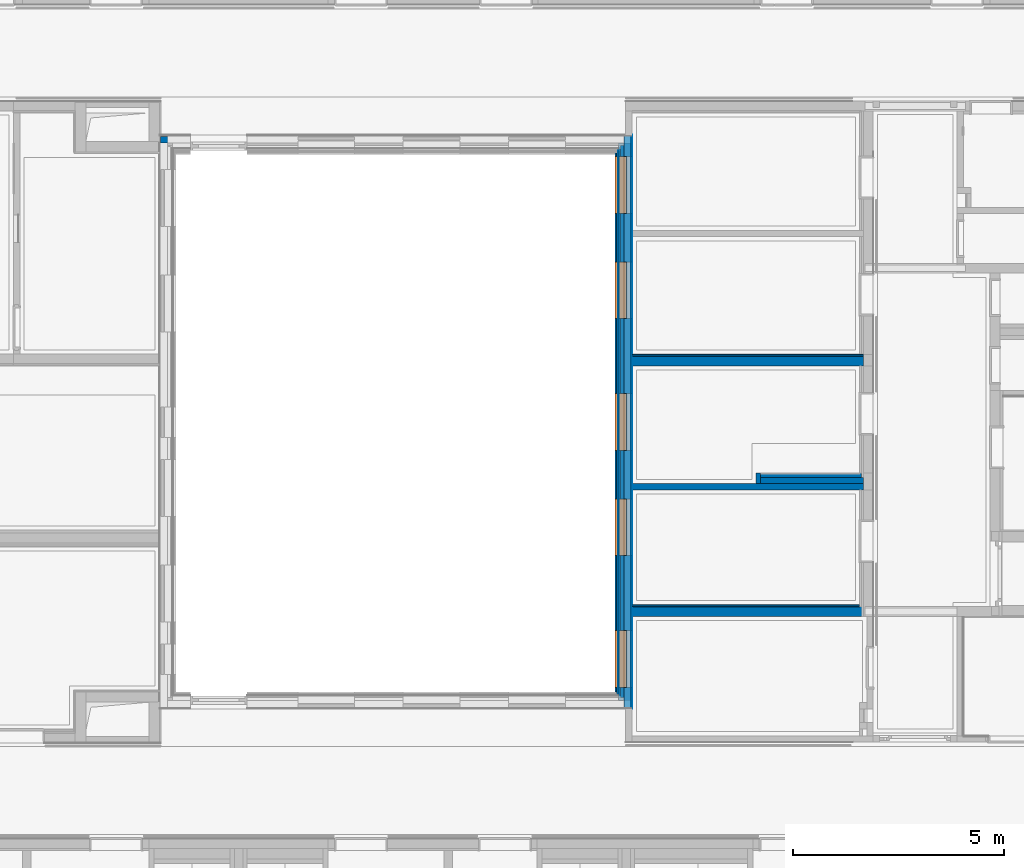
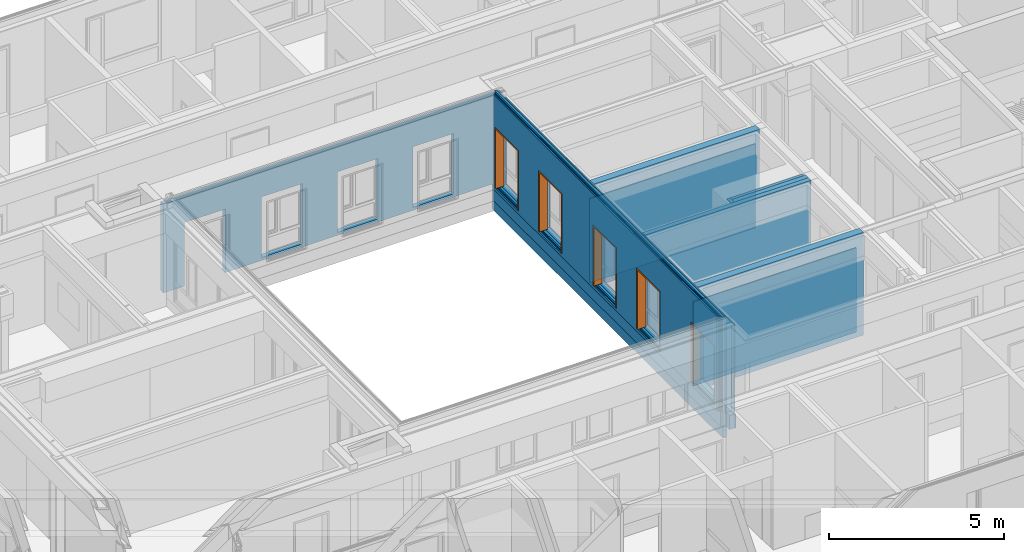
# One storey, part 51 of 207: 20 walls, 5 proxies, 39 openings.
"""IFC4 building model written with IfcOpenShell, lengths in metres."""

from ifc_helpers import new_model, entity, si_unit, converted_unit, derived_unit, frame, frame_2d, origin, origin_with_axes, place, context, subcontext, project, spatial, polyline, rectangle, outline, extrude, faceted_brep, material, element, fill, save


model = new_model("IFC4")

# Units and contexts
model_context = context("Model", 3, precision=1e-05, world=origin())
body_context = subcontext(model_context, "Body", "Model", "MODEL_VIEW")
ifc_project = project(units=[si_unit("LENGTHUNIT", "METRE"), si_unit("AREAUNIT", "SQUARE_METRE"), si_unit("VOLUMEUNIT", "CUBIC_METRE"), si_unit("MASSUNIT", "GRAM", prefix="KILO"), converted_unit("PLANEANGLEUNIT", "DEGREE", entity("IfcPlaneAngleMeasure", 0.0174532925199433), si_unit("PLANEANGLEUNIT", "RADIAN"), dimensions=[0, 0, 0, 0, 0, 0, 0]), derived_unit("THERMALTRANSMITTANCEUNIT", [(si_unit("POWERUNIT", "WATT"), 1), (si_unit("THERMODYNAMICTEMPERATUREUNIT", "KELVIN"), -1), (si_unit("LENGTHUNIT", "METRE"), -2)]), derived_unit("VOLUMETRICFLOWRATEUNIT", [(si_unit("LENGTHUNIT", "METRE"), 3), (converted_unit("TIMEUNIT", "hour", entity("IfcTimeMeasure", 3600.0), si_unit("TIMEUNIT", "SECOND"), dimensions=[0, 0, 1, 0, 0, 0, 0]), -1), (si_unit("LENGTHUNIT", "METRE"), -1)])], contexts=[model_context])

# Site, building, storey
site_placement = place(None, origin())
site = spatial("IfcSite", under=ifc_project, at=site_placement, Name="Psychiatrie Neubau Wunstorf", CompositionType="ELEMENT")
building_placement = place(site_placement, origin())
building = spatial("IfcBuilding", under=site, at=building_placement, Name="Neubau H2 Stationsgebäude", CompositionType="ELEMENT")
storey_placement = place(building_placement, frame((0.0, 0.0, -0.2)))
storey = spatial("IfcBuildingStorey", under=building, at=storey_placement, Name="H2 Ebene 0", CompositionType="ELEMENT", Elevation=-0.2)

# Wall, openings
ifc_material_1 = material(Name="WA-LB")
wall_1_placement = place(storey_placement, frame((90.361, 8.45000000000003, 0.5), z_axis=(0.0, 0.0, 1.0), x_axis=(0.0, 1.0, 0.0)))
wall_1 = element("IfcWall", 1, at=wall_1_placement, inside=storey, material=ifc_material_1, context=body_context, shape_type="SweptSolid", body=[
    extrude(rectangle(XDim=13.55, YDim=0.036, at=frame_2d((6.775, 0.018), x_axis=(1.0, 0.0))), origin_with_axes(), (0.0, 0.0, 1.0), 3.1),
])
opening_1_placement = place(wall_1_placement, frame((13.0746, 0.036, 0.1), z_axis=(0.0, -1.0, 0.0), x_axis=(0.0, 0.0, 1.0)))
element("IfcOpeningElement", 2, at=opening_1_placement, cuts=wall_1, Name="Fensteröffnung", ObjectType="Opening", context=body_context, shape_type="SweptSolid", body=[
    extrude(outline(polyline([(2.12, 1.35), (2.12, 0.0), (0.0, 0.0), (0.0, 1.35), (2.12, 1.35)])), origin_with_axes(), (0.0, 0.0, 1.0), 0.036),
])
opening_2_placement = place(wall_1_placement, frame((10.5746, 0.036, 0.1), z_axis=(0.0, -1.0, 0.0), x_axis=(0.0, 0.0, 1.0)))
element("IfcOpeningElement", 3, at=opening_2_placement, cuts=wall_1, Name="Fensteröffnung", ObjectType="Opening", context=body_context, shape_type="SweptSolid", body=[
    extrude(outline(polyline([(2.12, 1.35), (2.12, 0.0), (0.0, 0.0), (0.0, 1.35), (2.12, 1.35)])), origin_with_axes(), (0.0, 0.0, 1.0), 0.036),
])
opening_3_placement = place(wall_1_placement, frame((7.44999999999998, 0.036, 0.1), z_axis=(0.0, -1.0, 0.0), x_axis=(0.0, 0.0, 1.0)))
element("IfcOpeningElement", 4, at=opening_3_placement, cuts=wall_1, Name="Fensteröffnung", ObjectType="Opening", context=body_context, shape_type="SweptSolid", body=[
    extrude(outline(polyline([(2.12, 1.35), (2.12, 0.0), (0.0, 0.0), (0.0, 1.35), (2.12, 1.35)])), origin_with_axes(), (0.0, 0.0, 1.0), 0.036),
])
opening_4_placement = place(wall_1_placement, frame((4.94999999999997, 0.036, 0.1), z_axis=(0.0, -1.0, 0.0), x_axis=(0.0, 0.0, 1.0)))
element("IfcOpeningElement", 5, at=opening_4_placement, cuts=wall_1, Name="Fensteröffnung", ObjectType="Opening", context=body_context, shape_type="SweptSolid", body=[
    extrude(outline(polyline([(2.12, 1.35), (2.12, 0.0), (0.0, 0.0), (0.0, 1.35), (2.12, 1.35)])), origin_with_axes(), (0.0, 0.0, 1.0), 0.036),
])
opening_5_placement = place(wall_1_placement, frame((1.82569999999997, 0.036, 0.1), z_axis=(0.0, -1.0, 0.0), x_axis=(0.0, 0.0, 1.0)))
element("IfcOpeningElement", 6, at=opening_5_placement, cuts=wall_1, Name="Fensteröffnung", ObjectType="Opening", context=body_context, shape_type="SweptSolid", body=[
    extrude(outline(polyline([(2.12, 1.35), (2.12, 0.0), (0.0, 0.0), (0.0, 1.35), (2.12, 1.35)])), origin_with_axes(), (0.0, 0.0, 1.0), 0.036),
])

ifc_material_2 = material(Name="WA-HD")
wall_2_placement = place(storey_placement, frame((90.325, 8.61000000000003, 0.5), z_axis=(0.0, 0.0, 1.0), x_axis=(0.0, 1.0, 0.0)))
wall_2 = element("IfcWall", 7, at=wall_2_placement, inside=storey, material=ifc_material_2, context=body_context, shape_type="SweptSolid", body=[
    extrude(rectangle(XDim=13.23, YDim=0.16, at=frame_2d((6.615, 0.08), x_axis=(1.0, 0.0))), origin_with_axes(), (0.0, 0.0, 1.0), 3.1),
])
opening_6_placement = place(wall_2_placement, frame((12.9146, 0.16, 0.1), z_axis=(0.0, -1.0, 0.0), x_axis=(0.0, 0.0, 1.0)))
element("IfcOpeningElement", 8, at=opening_6_placement, cuts=wall_2, Name="Fensteröffnung", ObjectType="Opening", context=body_context, shape_type="SweptSolid", body=[
    extrude(outline(polyline([(2.12, 1.35), (2.12, 0.0), (0.0, 0.0), (0.0, 1.35), (2.12, 1.35)])), origin_with_axes(), (0.0, 0.0, 1.0), 0.16),
])
opening_7_placement = place(wall_2_placement, frame((10.4146, 0.16, 0.1), z_axis=(0.0, -1.0, 0.0), x_axis=(0.0, 0.0, 1.0)))
element("IfcOpeningElement", 9, at=opening_7_placement, cuts=wall_2, Name="Fensteröffnung", ObjectType="Opening", context=body_context, shape_type="SweptSolid", body=[
    extrude(outline(polyline([(2.12, 1.35), (2.12, 0.0), (0.0, 0.0), (0.0, 1.35), (2.12, 1.35)])), origin_with_axes(), (0.0, 0.0, 1.0), 0.16),
])
opening_8_placement = place(wall_2_placement, frame((7.28999999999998, 0.16, 0.1), z_axis=(0.0, -1.0, 0.0), x_axis=(0.0, 0.0, 1.0)))
element("IfcOpeningElement", 10, at=opening_8_placement, cuts=wall_2, Name="Fensteröffnung", ObjectType="Opening", context=body_context, shape_type="SweptSolid", body=[
    extrude(outline(polyline([(2.12, 1.35), (2.12, 0.0), (0.0, 0.0), (0.0, 1.35), (2.12, 1.35)])), origin_with_axes(), (0.0, 0.0, 1.0), 0.16),
])
opening_9_placement = place(wall_2_placement, frame((4.78999999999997, 0.16, 0.1), z_axis=(0.0, -1.0, 0.0), x_axis=(0.0, 0.0, 1.0)))
element("IfcOpeningElement", 11, at=opening_9_placement, cuts=wall_2, Name="Fensteröffnung", ObjectType="Opening", context=body_context, shape_type="SweptSolid", body=[
    extrude(outline(polyline([(2.12, 1.35), (2.12, 0.0), (0.0, 0.0), (0.0, 1.35), (2.12, 1.35)])), origin_with_axes(), (0.0, 0.0, 1.0), 0.16),
])
opening_10_placement = place(wall_2_placement, frame((1.66569999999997, 0.16, 0.1), z_axis=(0.0, -1.0, 0.0), x_axis=(0.0, 0.0, 1.0)))
element("IfcOpeningElement", 12, at=opening_10_placement, cuts=wall_2, Name="Fensteröffnung", ObjectType="Opening", context=body_context, shape_type="SweptSolid", body=[
    extrude(outline(polyline([(2.12, 1.35), (2.12, 0.0), (0.0, 0.0), (0.0, 1.35), (2.12, 1.35)])), origin_with_axes(), (0.0, 0.0, 1.0), 0.16),
])

ifc_material_3 = material(Name="WA-DL")
wall_3_placement = place(storey_placement, frame((90.165, 8.69000000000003, 0.5), z_axis=(0.0, 0.0, 1.0), x_axis=(0.0, 1.0, 0.0)))
wall_3 = element("IfcWall", 13, at=wall_3_placement, inside=storey, material=ifc_material_3, context=body_context, shape_type="SweptSolid", body=[
    extrude(rectangle(XDim=13.09, YDim=0.08, at=frame_2d((6.545, 0.04), x_axis=(1.0, 0.0))), origin_with_axes(), (0.0, 0.0, 1.0), 3.3),
])
opening_11_placement = place(wall_3_placement, frame((12.8346, 0.08, 0.1), z_axis=(0.0, -1.0, 0.0), x_axis=(0.0, 0.0, 1.0)))
element("IfcOpeningElement", 14, at=opening_11_placement, cuts=wall_3, Name="Fensteröffnung", ObjectType="Opening", context=body_context, shape_type="SweptSolid", body=[
    extrude(outline(polyline([(2.12, 1.35), (2.12, 0.0), (0.0, 0.0), (0.0, 1.35), (2.12, 1.35)])), origin_with_axes(), (0.0, 0.0, 1.0), 0.08),
])
opening_12_placement = place(wall_3_placement, frame((10.3346, 0.08, 0.1), z_axis=(0.0, -1.0, 0.0), x_axis=(0.0, 0.0, 1.0)))
element("IfcOpeningElement", 15, at=opening_12_placement, cuts=wall_3, Name="Fensteröffnung", ObjectType="Opening", context=body_context, shape_type="SweptSolid", body=[
    extrude(outline(polyline([(2.12, 1.35), (2.12, 0.0), (0.0, 0.0), (0.0, 1.35), (2.12, 1.35)])), origin_with_axes(), (0.0, 0.0, 1.0), 0.08),
])
opening_13_placement = place(wall_3_placement, frame((7.20999999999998, 0.08, 0.1), z_axis=(0.0, -1.0, 0.0), x_axis=(0.0, 0.0, 1.0)))
element("IfcOpeningElement", 16, at=opening_13_placement, cuts=wall_3, Name="Fensteröffnung", ObjectType="Opening", context=body_context, shape_type="SweptSolid", body=[
    extrude(outline(polyline([(2.12, 1.35), (2.12, 0.0), (0.0, 0.0), (0.0, 1.35), (2.12, 1.35)])), origin_with_axes(), (0.0, 0.0, 1.0), 0.08),
])
opening_14_placement = place(wall_3_placement, frame((4.70999999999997, 0.08, 0.1), z_axis=(0.0, -1.0, 0.0), x_axis=(0.0, 0.0, 1.0)))
element("IfcOpeningElement", 17, at=opening_14_placement, cuts=wall_3, Name="Fensteröffnung", ObjectType="Opening", context=body_context, shape_type="SweptSolid", body=[
    extrude(outline(polyline([(2.12, 1.35), (2.12, 0.0), (0.0, 0.0), (0.0, 1.35), (2.12, 1.35)])), origin_with_axes(), (0.0, 0.0, 1.0), 0.08),
])
opening_15_placement = place(wall_3_placement, frame((1.58569999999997, 0.08, 0.1), z_axis=(0.0, -1.0, 0.0), x_axis=(0.0, 0.0, 1.0)))
element("IfcOpeningElement", 18, at=opening_15_placement, cuts=wall_3, Name="Fensteröffnung", ObjectType="Opening", context=body_context, shape_type="SweptSolid", body=[
    extrude(outline(polyline([(2.12, 1.35), (2.12, 0.0), (0.0, 0.0), (0.0, 1.35), (2.12, 1.35)])), origin_with_axes(), (0.0, 0.0, 1.0), 0.08),
])

ifc_material_4 = material(Name="WA-LB")
wall_4_placement = place(storey_placement, frame((90.085, 8.72600000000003, 0.5), z_axis=(0.0, 0.0, 1.0), x_axis=(0.0, 1.0, 0.0)))
wall_4 = element("IfcWall", 19, at=wall_4_placement, inside=storey, material=ifc_material_4, context=body_context, shape_type="SweptSolid", body=[
    extrude(rectangle(XDim=12.974, YDim=0.036, at=frame_2d((6.487, 0.018), x_axis=(1.0, 0.0))), origin_with_axes(), (0.0, 0.0, 1.0), 3.3),
])
opening_16_placement = place(wall_4_placement, frame((12.7986, 0.036, 0.1), z_axis=(0.0, -1.0, 0.0), x_axis=(0.0, 0.0, 1.0)))
element("IfcOpeningElement", 20, at=opening_16_placement, cuts=wall_4, Name="Fensteröffnung", ObjectType="Opening", context=body_context, shape_type="SweptSolid", body=[
    extrude(outline(polyline([(2.12, 1.35), (2.12, 0.0), (0.0, 0.0), (0.0, 1.35), (2.12, 1.35)])), origin_with_axes(), (0.0, 0.0, 1.0), 0.036),
])
opening_17_placement = place(wall_4_placement, frame((10.2986, 0.036, 0.1), z_axis=(0.0, -1.0, 0.0), x_axis=(0.0, 0.0, 1.0)))
element("IfcOpeningElement", 21, at=opening_17_placement, cuts=wall_4, Name="Fensteröffnung", ObjectType="Opening", context=body_context, shape_type="SweptSolid", body=[
    extrude(outline(polyline([(2.12, 1.35), (2.12, 0.0), (0.0, 0.0), (0.0, 1.35), (2.12, 1.35)])), origin_with_axes(), (0.0, 0.0, 1.0), 0.036),
])
opening_18_placement = place(wall_4_placement, frame((7.17399999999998, 0.036, 0.1), z_axis=(0.0, -1.0, 0.0), x_axis=(0.0, 0.0, 1.0)))
element("IfcOpeningElement", 22, at=opening_18_placement, cuts=wall_4, Name="Fensteröffnung", ObjectType="Opening", context=body_context, shape_type="SweptSolid", body=[
    extrude(outline(polyline([(2.12, 1.35), (2.12, 0.0), (0.0, 0.0), (0.0, 1.35), (2.12, 1.35)])), origin_with_axes(), (0.0, 0.0, 1.0), 0.036),
])
opening_19_placement = place(wall_4_placement, frame((4.67399999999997, 0.036, 0.1), z_axis=(0.0, -1.0, 0.0), x_axis=(0.0, 0.0, 1.0)))
element("IfcOpeningElement", 23, at=opening_19_placement, cuts=wall_4, Name="Fensteröffnung", ObjectType="Opening", context=body_context, shape_type="SweptSolid", body=[
    extrude(outline(polyline([(2.12, 1.35), (2.12, 0.0), (0.0, 0.0), (0.0, 1.35), (2.12, 1.35)])), origin_with_axes(), (0.0, 0.0, 1.0), 0.036),
])
opening_20_placement = place(wall_4_placement, frame((1.54969999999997, 0.036, 0.1), z_axis=(0.0, -1.0, 0.0), x_axis=(0.0, 0.0, 1.0)))
element("IfcOpeningElement", 24, at=opening_20_placement, cuts=wall_4, Name="Fensteröffnung", ObjectType="Opening", context=body_context, shape_type="SweptSolid", body=[
    extrude(outline(polyline([(2.12, 1.35), (2.12, 0.0), (0.0, 0.0), (0.0, 1.35), (2.12, 1.35)])), origin_with_axes(), (0.0, 0.0, 1.0), 0.036),
])

ifc_material_5 = material(Name="WA-KL")
wall_5_placement = place(storey_placement, frame((90.049, 8.75000000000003, 0.5), z_axis=(0.0, 0.0, 1.0), x_axis=(0.0, 1.0, 0.0)))
wall_5 = element("IfcWall", 25, at=wall_5_placement, inside=storey, material=ifc_material_5, context=body_context, shape_type="SweptSolid", body=[
    extrude(rectangle(XDim=12.914, YDim=0.024, at=frame_2d((6.457, 0.012), x_axis=(1.0, 0.0))), origin_with_axes(), (0.0, 0.0, 1.0), 3.3),
])
opening_21_placement = place(wall_5_placement, frame((12.7746, 0.024, 0.1), z_axis=(0.0, -1.0, 0.0), x_axis=(0.0, 0.0, 1.0)))
element("IfcOpeningElement", 26, at=opening_21_placement, cuts=wall_5, Name="Fensteröffnung", ObjectType="Opening", context=body_context, shape_type="SweptSolid", body=[
    extrude(outline(polyline([(2.12, 1.35), (2.12, 0.0), (0.0, 0.0), (0.0, 1.35), (2.12, 1.35)])), origin_with_axes(), (0.0, 0.0, 1.0), 0.024),
])
opening_22_placement = place(wall_5_placement, frame((10.2746, 0.024, 0.1), z_axis=(0.0, -1.0, 0.0), x_axis=(0.0, 0.0, 1.0)))
element("IfcOpeningElement", 27, at=opening_22_placement, cuts=wall_5, Name="Fensteröffnung", ObjectType="Opening", context=body_context, shape_type="SweptSolid", body=[
    extrude(outline(polyline([(2.12, 1.35), (2.12, 0.0), (0.0, 0.0), (0.0, 1.35), (2.12, 1.35)])), origin_with_axes(), (0.0, 0.0, 1.0), 0.024),
])
opening_23_placement = place(wall_5_placement, frame((7.14999999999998, 0.024, 0.1), z_axis=(0.0, -1.0, 0.0), x_axis=(0.0, 0.0, 1.0)))
element("IfcOpeningElement", 28, at=opening_23_placement, cuts=wall_5, Name="Fensteröffnung", ObjectType="Opening", context=body_context, shape_type="SweptSolid", body=[
    extrude(outline(polyline([(2.12, 1.35), (2.12, 0.0), (0.0, 0.0), (0.0, 1.35), (2.12, 1.35)])), origin_with_axes(), (0.0, 0.0, 1.0), 0.024),
])
opening_24_placement = place(wall_5_placement, frame((4.64999999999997, 0.024, 0.1), z_axis=(0.0, -1.0, 0.0), x_axis=(0.0, 0.0, 1.0)))
element("IfcOpeningElement", 29, at=opening_24_placement, cuts=wall_5, Name="Fensteröffnung", ObjectType="Opening", context=body_context, shape_type="SweptSolid", body=[
    extrude(outline(polyline([(2.12, 1.35), (2.12, 0.0), (0.0, 0.0), (0.0, 1.35), (2.12, 1.35)])), origin_with_axes(), (0.0, 0.0, 1.0), 0.024),
])
opening_25_placement = place(wall_5_placement, frame((1.52569999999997, 0.024, 0.1), z_axis=(0.0, -1.0, 0.0), x_axis=(0.0, 0.0, 1.0)))
element("IfcOpeningElement", 30, at=opening_25_placement, cuts=wall_5, Name="Fensteröffnung", ObjectType="Opening", context=body_context, shape_type="SweptSolid", body=[
    extrude(outline(polyline([(2.12, 1.35), (2.12, 0.0), (0.0, 0.0), (0.0, 1.35), (2.12, 1.35)])), origin_with_axes(), (0.0, 0.0, 1.0), 0.024),
])

ifc_material_6 = material(Name="WA-TL")
wall_6_placement = place(storey_placement, frame((90.025, 8.77400000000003, 0.5), z_axis=(0.0, 0.0, 1.0), x_axis=(0.0, 1.0, 0.0)))
wall_6 = element("IfcWall", 31, at=wall_6_placement, inside=storey, material=ifc_material_6, context=body_context, shape_type="SweptSolid", body=[
    extrude(rectangle(XDim=12.866, YDim=0.024, at=frame_2d((6.433, 0.012), x_axis=(1.0, 0.0))), origin_with_axes(), (0.0, 0.0, 1.0), 3.3),
])
opening_26_placement = place(wall_6_placement, frame((12.7506, 0.024, 0.1), z_axis=(0.0, -1.0, 0.0), x_axis=(0.0, 0.0, 1.0)))
element("IfcOpeningElement", 32, at=opening_26_placement, cuts=wall_6, Name="Fensteröffnung", ObjectType="Opening", context=body_context, shape_type="SweptSolid", body=[
    extrude(outline(polyline([(2.12, 1.35), (2.12, 0.0), (0.0, 0.0), (0.0, 1.35), (2.12, 1.35)])), origin_with_axes(), (0.0, 0.0, 1.0), 0.024),
])
opening_27_placement = place(wall_6_placement, frame((10.2506, 0.024, 0.1), z_axis=(0.0, -1.0, 0.0), x_axis=(0.0, 0.0, 1.0)))
element("IfcOpeningElement", 33, at=opening_27_placement, cuts=wall_6, Name="Fensteröffnung", ObjectType="Opening", context=body_context, shape_type="SweptSolid", body=[
    extrude(outline(polyline([(2.12, 1.35), (2.12, 0.0), (0.0, 0.0), (0.0, 1.35), (2.12, 1.35)])), origin_with_axes(), (0.0, 0.0, 1.0), 0.024),
])
opening_28_placement = place(wall_6_placement, frame((7.12599999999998, 0.024, 0.1), z_axis=(0.0, -1.0, 0.0), x_axis=(0.0, 0.0, 1.0)))
element("IfcOpeningElement", 34, at=opening_28_placement, cuts=wall_6, Name="Fensteröffnung", ObjectType="Opening", context=body_context, shape_type="SweptSolid", body=[
    extrude(outline(polyline([(2.12, 1.35), (2.12, 0.0), (0.0, 0.0), (0.0, 1.35), (2.12, 1.35)])), origin_with_axes(), (0.0, 0.0, 1.0), 0.024),
])
opening_29_placement = place(wall_6_placement, frame((4.62599999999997, 0.024, 0.1), z_axis=(0.0, -1.0, 0.0), x_axis=(0.0, 0.0, 1.0)))
element("IfcOpeningElement", 35, at=opening_29_placement, cuts=wall_6, Name="Fensteröffnung", ObjectType="Opening", context=body_context, shape_type="SweptSolid", body=[
    extrude(outline(polyline([(2.12, 1.35), (2.12, 0.0), (0.0, 0.0), (0.0, 1.35), (2.12, 1.35)])), origin_with_axes(), (0.0, 0.0, 1.0), 0.024),
])
opening_30_placement = place(wall_6_placement, frame((1.50169999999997, 0.024, 0.1), z_axis=(0.0, -1.0, 0.0), x_axis=(0.0, 0.0, 1.0)))
element("IfcOpeningElement", 36, at=opening_30_placement, cuts=wall_6, Name="Fensteröffnung", ObjectType="Opening", context=body_context, shape_type="SweptSolid", body=[
    extrude(outline(polyline([(2.12, 1.35), (2.12, 0.0), (0.0, 0.0), (0.0, 1.35), (2.12, 1.35)])), origin_with_axes(), (0.0, 0.0, 1.0), 0.024),
])

# Wall, openings, proxies
ifc_material_7 = material(Name="WA-HS")
wall_7_placement = place(storey_placement, frame((90.001, 8.81600000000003, 0.5), z_axis=(0.0, 0.0, 1.0), x_axis=(0.0, 1.0, 0.0)))
wall_7 = element("IfcWall", 37, at=wall_7_placement, inside=storey, material=ifc_material_7, context=body_context, shape_type="SweptSolid", body=[
    extrude(rectangle(XDim=12.8, YDim=0.042, at=frame_2d((6.4, 0.021), x_axis=(1.0, 0.0))), origin_with_axes(), (0.0, 0.0, 1.0), 3.3),
])
opening_31_placement = place(wall_7_placement, frame((12.7086, 0.042, 0.1), z_axis=(0.0, -1.0, 0.0), x_axis=(0.0, 0.0, 1.0)))
opening_31 = element("IfcOpeningElement", 38, at=opening_31_placement, cuts=wall_7, Name="Fensteröffnung", ObjectType="Opening", context=body_context, shape_type="SweptSolid", body=[
    extrude(outline(polyline([(2.12, 1.35), (2.12, 0.0), (0.0, 0.0), (0.0, 1.35), (2.12, 1.35)])), origin_with_axes(), (0.0, 0.0, 1.0), 0.042),
])
opening_32_placement = place(wall_7_placement, frame((10.2086, 0.042, 0.1), z_axis=(0.0, -1.0, 0.0), x_axis=(0.0, 0.0, 1.0)))
opening_32 = element("IfcOpeningElement", 39, at=opening_32_placement, cuts=wall_7, Name="Fensteröffnung", ObjectType="Opening", context=body_context, shape_type="SweptSolid", body=[
    extrude(outline(polyline([(2.12, 1.35), (2.12, 0.0), (0.0, 0.0), (0.0, 1.35), (2.12, 1.35)])), origin_with_axes(), (0.0, 0.0, 1.0), 0.042),
])
opening_33_placement = place(wall_7_placement, frame((7.08399999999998, 0.042, 0.1), z_axis=(0.0, -1.0, 0.0), x_axis=(0.0, 0.0, 1.0)))
opening_33 = element("IfcOpeningElement", 40, at=opening_33_placement, cuts=wall_7, Name="Fensteröffnung", ObjectType="Opening", context=body_context, shape_type="SweptSolid", body=[
    extrude(outline(polyline([(2.12, 1.35), (2.12, 0.0), (0.0, 0.0), (0.0, 1.35), (2.12, 1.35)])), origin_with_axes(), (0.0, 0.0, 1.0), 0.042),
])
opening_34_placement = place(wall_7_placement, frame((4.58399999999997, 0.042, 0.1), z_axis=(0.0, -1.0, 0.0), x_axis=(0.0, 0.0, 1.0)))
opening_34 = element("IfcOpeningElement", 41, at=opening_34_placement, cuts=wall_7, Name="Fensteröffnung", ObjectType="Opening", context=body_context, shape_type="SweptSolid", body=[
    extrude(outline(polyline([(2.12, 1.35), (2.12, 0.0), (0.0, 0.0), (0.0, 1.35), (2.12, 1.35)])), origin_with_axes(), (0.0, 0.0, 1.0), 0.042),
])
opening_35_placement = place(wall_7_placement, frame((1.45969999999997, 0.042, 0.1), z_axis=(0.0, -1.0, 0.0), x_axis=(0.0, 0.0, 1.0)))
opening_35 = element("IfcOpeningElement", 42, at=opening_35_placement, cuts=wall_7, Name="Fensteröffnung", ObjectType="Opening", context=body_context, shape_type="SweptSolid", body=[
    extrude(outline(polyline([(2.12, 1.35), (2.12, 0.0), (0.0, 0.0), (0.0, 1.35), (2.12, 1.35)])), origin_with_axes(), (0.0, 0.0, 1.0), 0.042),
])
ifc_material_8 = material(Name="WA-HS")
proxy_1_placement = place(opening_31_placement, frame((0.0, 1.35, 0.0)))
proxy_1 = element("IfcBuildingElementProxy", 43, at=proxy_1_placement, inside=storey, material=ifc_material_8, context=body_context, shape_type="Brep", body=[
    faceted_brep([(0.0, -1.35, 0.0), (0.0, -1.35, 0.275), (2.12, -1.35, 0.275), (2.12, -1.35, 0.0), (0.0, -1.3, 0.275), (0.0, -1.3, 0.0), (2.07, -1.3, 0.0), (2.07, -1.3, 0.275), (2.12, 0.0, 0.275), (2.12, 0.0, 0.0), (0.0, 0.0, 0.0), (0.0, -0.05, 0.0), (2.07, -0.05, 0.0), (2.07, -0.05, 0.275), (0.0, -0.05, 0.275), (0.0, 0.0, 0.275)], [[[0, 1, 2, 3]], [[4, 5, 6, 7]], [[0, 5, 4, 1]], [[3, 2, 8, 9]], [[6, 5, 0, 3, 9, 10, 11, 12]], [[13, 14, 15, 8, 2, 1, 4, 7]], [[7, 6, 12, 13]], [[11, 14, 13, 12]], [[15, 10, 9, 8]], [[11, 10, 15, 14]]], orient=[[False], [False], [False], [False], [False], [False], [False], [False], [False], [False]]),
])
fill(opening_31, proxy_1)
ifc_material_9 = material(Name="WA-HS")
proxy_2_placement = place(opening_32_placement, frame((0.0, 1.35, 0.0)))
proxy_2 = element("IfcBuildingElementProxy", 44, at=proxy_2_placement, inside=storey, material=ifc_material_9, context=body_context, shape_type="Brep", body=[
    faceted_brep([(0.0, -1.35, 0.0), (0.0, -1.35, 0.275), (2.12, -1.35, 0.275), (2.12, -1.35, 0.0), (0.0, -1.3, 0.275), (0.0, -1.3, 0.0), (2.07, -1.3, 0.0), (2.07, -1.3, 0.275), (2.12, 0.0, 0.275), (2.12, 0.0, 0.0), (0.0, 0.0, 0.0), (0.0, -0.05, 0.0), (2.07, -0.05, 0.0), (2.07, -0.05, 0.275), (0.0, -0.05, 0.275), (0.0, 0.0, 0.275)], [[[0, 1, 2, 3]], [[4, 5, 6, 7]], [[0, 5, 4, 1]], [[3, 2, 8, 9]], [[6, 5, 0, 3, 9, 10, 11, 12]], [[13, 14, 15, 8, 2, 1, 4, 7]], [[7, 6, 12, 13]], [[11, 14, 13, 12]], [[15, 10, 9, 8]], [[11, 10, 15, 14]]], orient=[[False], [False], [False], [False], [False], [False], [False], [False], [False], [False]]),
])
fill(opening_32, proxy_2)
ifc_material_10 = material(Name="WA-HS")
proxy_3_placement = place(opening_33_placement, frame((0.0, 1.35, 0.0)))
proxy_3 = element("IfcBuildingElementProxy", 45, at=proxy_3_placement, inside=storey, material=ifc_material_10, context=body_context, shape_type="Brep", body=[
    faceted_brep([(0.0, -1.35, 0.0), (0.0, -1.35, 0.275), (2.12, -1.35, 0.275), (2.12, -1.35, 0.0), (0.0, -1.3, 0.275), (0.0, -1.3, 0.0), (2.07, -1.3, 0.0), (2.07, -1.3, 0.275), (2.12, 0.0, 0.275), (2.12, 0.0, 0.0), (0.0, 0.0, 0.0), (0.0, -0.05, 0.0), (2.07, -0.05, 0.0), (2.07, -0.05, 0.275), (0.0, -0.05, 0.275), (0.0, 0.0, 0.275)], [[[0, 1, 2, 3]], [[4, 5, 6, 7]], [[0, 5, 4, 1]], [[3, 2, 8, 9]], [[6, 5, 0, 3, 9, 10, 11, 12]], [[13, 14, 15, 8, 2, 1, 4, 7]], [[7, 6, 12, 13]], [[11, 14, 13, 12]], [[15, 10, 9, 8]], [[11, 10, 15, 14]]], orient=[[False], [False], [False], [False], [False], [False], [False], [False], [False], [False]]),
])
fill(opening_33, proxy_3)
ifc_material_11 = material(Name="WA-HS")
proxy_4_placement = place(opening_34_placement, frame((0.0, 1.35, 0.0)))
proxy_4 = element("IfcBuildingElementProxy", 46, at=proxy_4_placement, inside=storey, material=ifc_material_11, context=body_context, shape_type="Brep", body=[
    faceted_brep([(0.0, -1.35, 0.0), (0.0, -1.35, 0.275), (2.12, -1.35, 0.275), (2.12, -1.35, 0.0), (0.0, -1.3, 0.275), (0.0, -1.3, 0.0), (2.07, -1.3, 0.0), (2.07, -1.3, 0.275), (2.12, 0.0, 0.275), (2.12, 0.0, 0.0), (0.0, 0.0, 0.0), (0.0, -0.05, 0.0), (2.07, -0.05, 0.0), (2.07, -0.05, 0.275), (0.0, -0.05, 0.275), (0.0, 0.0, 0.275)], [[[0, 1, 2, 3]], [[4, 5, 6, 7]], [[0, 5, 4, 1]], [[3, 2, 8, 9]], [[6, 5, 0, 3, 9, 10, 11, 12]], [[13, 14, 15, 8, 2, 1, 4, 7]], [[7, 6, 12, 13]], [[11, 14, 13, 12]], [[15, 10, 9, 8]], [[11, 10, 15, 14]]], orient=[[False], [False], [False], [False], [False], [False], [False], [False], [False], [False]]),
])
fill(opening_34, proxy_4)
ifc_material_12 = material(Name="WA-HS")
proxy_5_placement = place(opening_35_placement, frame((0.0, 1.35, 0.0)))
proxy_5 = element("IfcBuildingElementProxy", 47, at=proxy_5_placement, inside=storey, material=ifc_material_12, context=body_context, shape_type="Brep", body=[
    faceted_brep([(0.0, -1.35, 0.0), (0.0, -1.35, 0.275), (2.12, -1.35, 0.275), (2.12, -1.35, 0.0), (0.0, -1.3, 0.275), (0.0, -1.3, 0.0), (2.07, -1.3, 0.0), (2.07, -1.3, 0.275), (2.12, 0.0, 0.275), (2.12, 0.0, 0.0), (0.0, 0.0, 0.0), (0.0, -0.05, 0.0), (2.07, -0.05, 0.0), (2.07, -0.05, 0.275), (0.0, -0.05, 0.275), (0.0, 0.0, 0.275)], [[[0, 1, 2, 3]], [[4, 5, 6, 7]], [[0, 5, 4, 1]], [[3, 2, 8, 9]], [[6, 5, 0, 3, 9, 10, 11, 12]], [[13, 14, 15, 8, 2, 1, 4, 7]], [[7, 6, 12, 13]], [[11, 14, 13, 12]], [[15, 10, 9, 8]], [[11, 10, 15, 14]]], orient=[[False], [False], [False], [False], [False], [False], [False], [False], [False], [False]]),
])
fill(opening_35, proxy_5)

# Wall, openings
ifc_material_13 = material(Name="WA-HD")
wall_8_placement = place(storey_placement, frame((90.325, 22.0, 0.5), z_axis=(0.0, 0.0, 1.0), x_axis=(-1.0, 0.0, 0.0)))
wall_8 = element("IfcWall", 48, at=wall_8_placement, inside=storey, material=ifc_material_13, context=body_context, shape_type="SweptSolid", body=[
    extrude(rectangle(XDim=11.15, YDim=0.16, at=frame_2d((5.575, 0.08), x_axis=(1.0, 0.0))), origin_with_axes(), (0.0, 0.0, 1.0), 3.1),
])
opening_36_placement = place(wall_8_placement, frame((7.8953, 0.16, 0.1), z_axis=(0.0, -1.0, 0.0), x_axis=(0.0, 0.0, 1.0)))
element("IfcOpeningElement", 49, at=opening_36_placement, cuts=wall_8, Name="Fensteröffnung", ObjectType="Opening", context=body_context, shape_type="SweptSolid", body=[
    extrude(outline(polyline([(2.12, 1.35), (2.12, 0.0), (0.0, 0.0), (0.0, 1.35), (2.12, 1.35)])), origin_with_axes(), (0.0, 0.0, 1.0), 0.16),
])
opening_37_placement = place(wall_8_placement, frame((5.3953, 0.16, 0.1), z_axis=(0.0, -1.0, 0.0), x_axis=(0.0, 0.0, 1.0)))
element("IfcOpeningElement", 50, at=opening_37_placement, cuts=wall_8, Name="Fensteröffnung", ObjectType="Opening", context=body_context, shape_type="SweptSolid", body=[
    extrude(outline(polyline([(2.12, 1.35), (2.12, 0.0), (0.0, 0.0), (0.0, 1.35), (2.12, 1.35)])), origin_with_axes(), (0.0, 0.0, 1.0), 0.16),
])
opening_38_placement = place(wall_8_placement, frame((2.8953, 0.16, 0.1), z_axis=(0.0, -1.0, 0.0), x_axis=(0.0, 0.0, 1.0)))
element("IfcOpeningElement", 51, at=opening_38_placement, cuts=wall_8, Name="Fensteröffnung", ObjectType="Opening", context=body_context, shape_type="SweptSolid", body=[
    extrude(outline(polyline([(2.12, 1.35), (2.12, 0.0), (0.0, 0.0), (0.0, 1.35), (2.12, 1.35)])), origin_with_axes(), (0.0, 0.0, 1.0), 0.16),
])
opening_39_placement = place(wall_8_placement, frame((10.444, 0.16, -0.5), z_axis=(0.0, -1.0, 0.0), x_axis=(0.0, 0.0, 1.0)))
element("IfcOpeningElement", 52, at=opening_39_placement, cuts=wall_8, Name="Türöffnung", ObjectType="Opening", context=body_context, shape_type="SweptSolid", body=[
    extrude(outline(polyline([(2.72, 1.35), (2.72, 0.0), (0.0, 0.0), (0.0, 1.35), (2.72, 1.35)])), origin_with_axes(), (0.0, 0.0, 1.0), 0.16),
])

# Walls
ifc_material_14 = material(Name="WA-LB")
wall_9_placement = place(storey_placement, frame((90.361, 8.41400000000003, 0.0), z_axis=(0.0, 0.0, 1.0), x_axis=(0.0, 1.0, 0.0)))
element("IfcWall", 53, at=wall_9_placement, inside=storey, material=ifc_material_14, context=body_context, shape_type="SweptSolid", body=[
    extrude(rectangle(XDim=13.622, YDim=0.021, at=frame_2d((6.811, 0.0105), x_axis=(1.0, 0.0))), origin_with_axes(), (0.0, 0.0, 1.0), 0.5),
])
ifc_material_15 = material(Name="WA-STB")
wall_10_placement = place(storey_placement, frame((90.34, 8.43500000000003, 0.0), z_axis=(0.0, 0.0, 1.0), x_axis=(0.0, 1.0, 0.0)))
element("IfcWall", 54, at=wall_10_placement, inside=storey, material=ifc_material_15, context=body_context, shape_type="SweptSolid", body=[
    extrude(rectangle(XDim=13.58, YDim=0.175, at=frame_2d((6.79, 0.0875), x_axis=(1.0, 0.0))), origin_with_axes(), (0.0, 0.0, 1.0), 0.5),
])
ifc_material_16 = material(Name="WA-DE")
wall_11_placement = place(storey_placement, frame((90.165, 8.61000000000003, -0.36), z_axis=(0.0, 0.0, 1.0), x_axis=(0.0, 1.0, 0.0)))
element("IfcWall", 55, at=wall_11_placement, inside=storey, material=ifc_material_16, context=body_context, shape_type="SweptSolid", body=[
    extrude(rectangle(XDim=13.23, YDim=0.12, at=frame_2d((6.615, 0.06), x_axis=(1.0, 0.0))), origin_with_axes(), (0.0, 0.0, 1.0), 0.86),
])
ifc_material_17 = material(Name="WA-LB")
wall_12_placement = place(storey_placement, frame((90.045, 8.73000000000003, 0.0), z_axis=(0.0, 0.0, 1.0), x_axis=(0.0, 1.0, 0.0)))
element("IfcWall", 56, at=wall_12_placement, inside=storey, material=ifc_material_17, context=body_context, shape_type="SweptSolid", body=[
    extrude(rectangle(XDim=12.99, YDim=0.015, at=frame_2d((6.495, 0.0075), x_axis=(1.0, 0.0))), origin_with_axes(), (0.0, 0.0, 1.0), 0.5),
])
ifc_material_18 = material(Name="WI-LB")
wall_13_placement = place(storey_placement, frame((95.8504999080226, 13.7609999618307, 0.0), z_axis=(0.0, 0.0, 1.0), x_axis=(-1.0, 0.0, 0.0)))
element("IfcWall", 57, at=wall_13_placement, inside=storey, material=ifc_material_18, context=body_context, shape_type="SweptSolid", body=[
    extrude(rectangle(XDim=5.48949990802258, YDim=0.15, at=frame_2d((2.74474995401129, 0.075), x_axis=(1.0, 0.0))), origin_with_axes(), (0.0, 0.0, 1.0), 3.6),
])
ifc_material_19 = material(Name="WI-LB")
wall_14_placement = place(storey_placement, frame((95.8505, 16.8255, 0.0), z_axis=(0.0, 0.0, 1.0), x_axis=(-1.0, 0.0, 0.0)))
element("IfcWall", 58, at=wall_14_placement, inside=storey, material=ifc_material_19, context=body_context, shape_type="SweptSolid", body=[
    extrude(rectangle(XDim=5.48950000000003, YDim=0.04, at=frame_2d((2.74475000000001, 0.02), x_axis=(1.0, 0.0))), origin_with_axes(), (0.0, 0.0, 1.0), 2.95),
])
ifc_material_20 = material(Name="WI-HW 60")
wall_15_placement = place(storey_placement, frame((95.8505, 16.7855, 0.0), z_axis=(0.0, 0.0, 1.0), x_axis=(-1.0, 0.0, 0.0)))
element("IfcWall", 59, at=wall_15_placement, inside=storey, material=ifc_material_20, context=body_context, shape_type="SweptSolid", body=[
    extrude(rectangle(XDim=5.48950000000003, YDim=0.232, at=frame_2d((2.74475000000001, 0.116), x_axis=(1.0, 0.0))), origin_with_axes(), (0.0, 0.0, 1.0), 3.6),
])
ifc_material_21 = material(Name="WI-LB")
wall_16_placement = place(storey_placement, frame((95.7609999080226, 10.8824998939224, 0.0), z_axis=(0.0, 0.0, 1.0), x_axis=(-1.0, 0.0, 0.0)))
element("IfcWall", 60, at=wall_16_placement, inside=storey, material=ifc_material_21, context=body_context, shape_type="SweptSolid", body=[
    extrude(rectangle(XDim=5.39999990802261, YDim=0.04, at=frame_2d((2.69999995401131, 0.02), x_axis=(1.0, 0.0))), origin_with_axes(), (0.0, 0.0, 1.0), 2.95),
])
ifc_material_22 = material(Name="WI-HW 60")
wall_17_placement = place(storey_placement, frame((95.8505, 10.8424998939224, 0.0), z_axis=(0.0, 0.0, 1.0), x_axis=(-1.0, 0.0, 0.0)))
element("IfcWall", 61, at=wall_17_placement, inside=storey, material=ifc_material_22, context=body_context, shape_type="SweptSolid", body=[
    extrude(rectangle(XDim=5.48950000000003, YDim=0.232, at=frame_2d((2.74475000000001, 0.116), x_axis=(1.0, 0.0))), origin_with_axes(), (0.0, 0.0, 1.0), 3.6),
])
ifc_material_23 = material(Name="Installationsraum")
wall_18_placement = place(storey_placement, frame((93.403499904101, 13.7609999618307, 0.0)))
element("IfcWall", 62, at=wall_18_placement, inside=storey, material=ifc_material_23, context=body_context, shape_type="SweptSolid", body=[
    extrude(rectangle(XDim=2.44700009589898, YDim=0.15, at=frame_2d((1.22350004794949, 0.075), x_axis=(1.0, 0.0))), origin_with_axes(), (0.0, 0.0, 1.0), 3.6),
])
ifc_material_24 = material(Name="WI-VS")
wall_19_placement = place(storey_placement, frame((93.403499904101, 13.9109999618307, 0.0)))
element("IfcWall", 63, at=wall_19_placement, inside=storey, material=ifc_material_24, context=body_context, shape_type="SweptSolid", body=[
    extrude(rectangle(XDim=2.39700014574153, YDim=0.1, at=frame_2d((1.19850007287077, 0.05), x_axis=(1.0, 0.0))), origin_with_axes(), (0.0, 0.0, 1.0), 3.6),
])
ifc_material_25 = material(Name="WI-IW")
wall_20_placement = place(storey_placement, frame((93.403499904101, 13.7609999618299, 0.0), z_axis=(0.0, 0.0, 1.0), x_axis=(0.0, 1.0, 0.0)))
element("IfcWall", 64, at=wall_20_placement, inside=storey, material=ifc_material_25, context=body_context, shape_type="SweptSolid", body=[
    extrude(rectangle(XDim=0.25, YDim=0.1, at=frame_2d((0.125, 0.05), x_axis=(1.0, 0.0))), origin_with_axes(), (0.0, 0.0, 1.0), 3.6),
])

save(model, "model.ifc")
